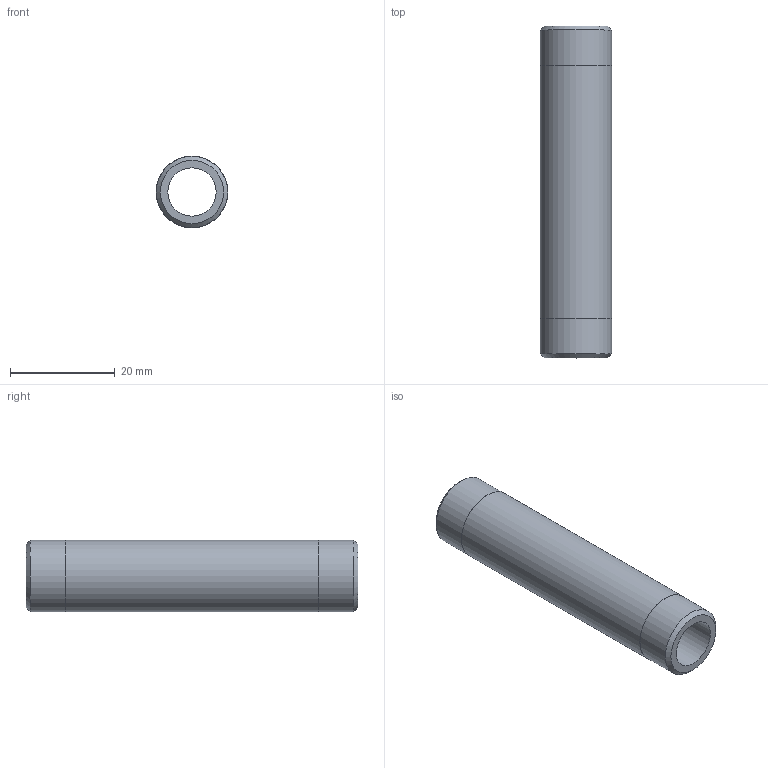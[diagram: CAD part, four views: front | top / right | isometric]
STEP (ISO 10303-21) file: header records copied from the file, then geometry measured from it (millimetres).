
FILE_DESCRIPTION(/* description */ (''),/* implementation_level */ '2;1');
FILE_NAME(/* name */ 'C:/Users/drich/Desktop/BPN14-2-1_2 v1.step',/* time_stamp */ '2020-01-03T14:36:47-06:00',/* author */ (''),/* organization */ (''),/* preprocessor_version */ 'ST-DEVELOPER v18',/* originating_system */ 'Autodesk Translation Framework v8.12.0.6',/* authorisation */ '');
FILE_SCHEMA (('AUTOMOTIVE_DESIGN { 1 0 10303 214 3 1 1 }'));
Length unit declared in the file: inch
Products named in the file (1): BPN14-2-1_2
Bounding box: 13.72 x 63.5 x 13.72 mm (x, y, z)
Volume: 5078.7 mm3; surface area: 4699.6 mm2
Topology: 1 solids, 1 shells, 10 faces, 24 edges, 18 vertices
Faces by surface type: cylinder 4, plane 4, cone 2
Full cylindrical faces by diameter (mm): 9.246 x1, 13.665 x2, 13.716 x1
Entity records: 360 total; most frequent: DIRECTION 64, CARTESIAN_POINT 53, ORIENTED_EDGE 48, AXIS2_PLACEMENT_3D 29, EDGE_CURVE 24, CIRCLE 18, VERTEX_POINT 18, EDGE_LOOP 14
